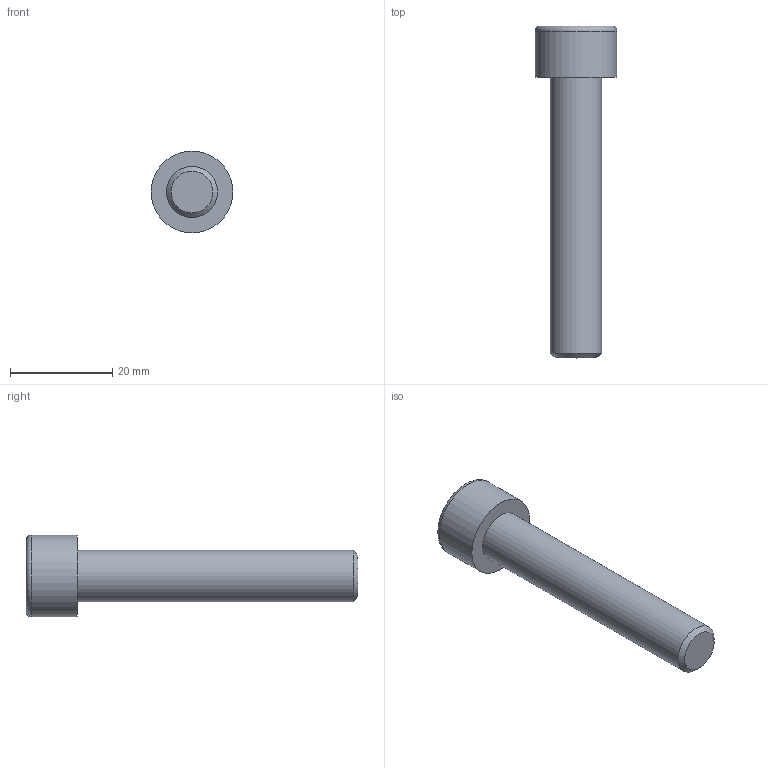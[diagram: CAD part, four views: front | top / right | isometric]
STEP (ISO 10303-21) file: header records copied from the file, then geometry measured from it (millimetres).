
FILE_DESCRIPTION(/* description */ (''),/* implementation_level */ '2;1');
FILE_NAME(/* name */ 'C:\Users\D\Documents\Inventor\各種小物\JIS\JIS B 1176 六角穴付きボルト\M10x55.stp',/* time_stamp */ '2022-05-09T18:52:09+09:00',/* author */ ('D'),/* organization */ (''),/* preprocessor_version */ 'ST-DEVELOPER v18',/* originating_system */ 'Autodesk Inventor 2020',/* authorisation */ '');
FILE_SCHEMA (('AUTOMOTIVE_DESIGN { 1 0 10303 214 3 1 1 }'));
Length unit declared in the file: millimetre
Products named in the file (1): M1.6x2.5
Bounding box: 16 x 65 x 16 mm (x, y, z)
Volume: 5972.3 mm3; surface area: 2746.2 mm2
Topology: 1 solids, 1 shells, 14 faces, 33 edges, 22 vertices
Faces by surface type: plane 9, cone 2, cylinder 2, torus 1
Full cylindrical faces by diameter (mm): 10 x1, 16 x1
Entity records: 435 total; most frequent: CARTESIAN_POINT 83, ORIENTED_EDGE 64, DIRECTION 64, EDGE_CURVE 32, AXIS2_PLACEMENT_3D 24, VERTEX_POINT 22, EDGE_LOOP 16, LINE 16
